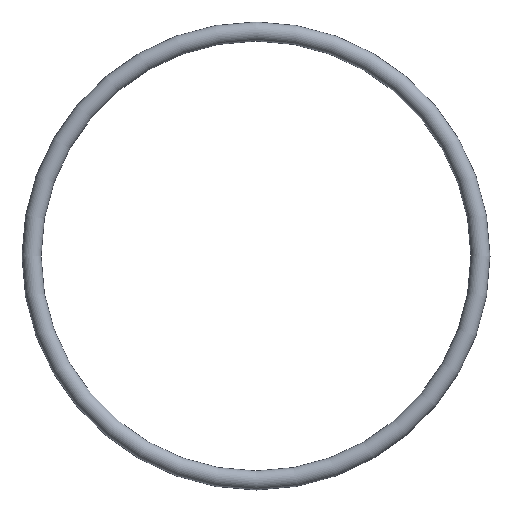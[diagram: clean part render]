
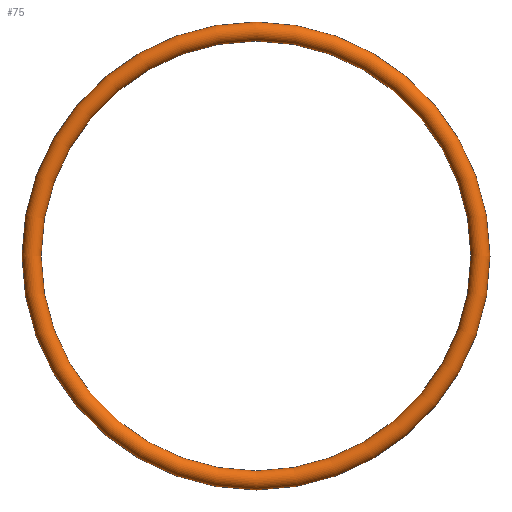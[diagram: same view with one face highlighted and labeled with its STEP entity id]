
A CAD part, front view. The second image highlights one B-rep face of the part: STEP entity #75.
In plain terms, the highlighted toroidal (fillet/blend) face has major radius 23.5 mm and minor radius 1 mm.
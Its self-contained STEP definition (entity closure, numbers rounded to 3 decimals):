
#75 = ADVANCED_FACE( '', ( #77 ), #78, .T. );
#77 = FACE_BOUND( '', #79, .T. );
#78 = TOROIDAL_SURFACE( '', #80, 23.5, 1. );
#79 = VERTEX_LOOP( '', #81 );
#80 = AXIS2_PLACEMENT_3D( '', #82, #83, #84 );
#81 = VERTEX_POINT( '', #85 );
#82 = CARTESIAN_POINT( '', ( 0., 0., 0. ) );
#83 = DIRECTION( '', ( 0., -1., 0. ) );
#84 = DIRECTION( '', ( 0., 0., -1. ) );
#85 = CARTESIAN_POINT( '', ( 0., 0., -24.5 ) );
